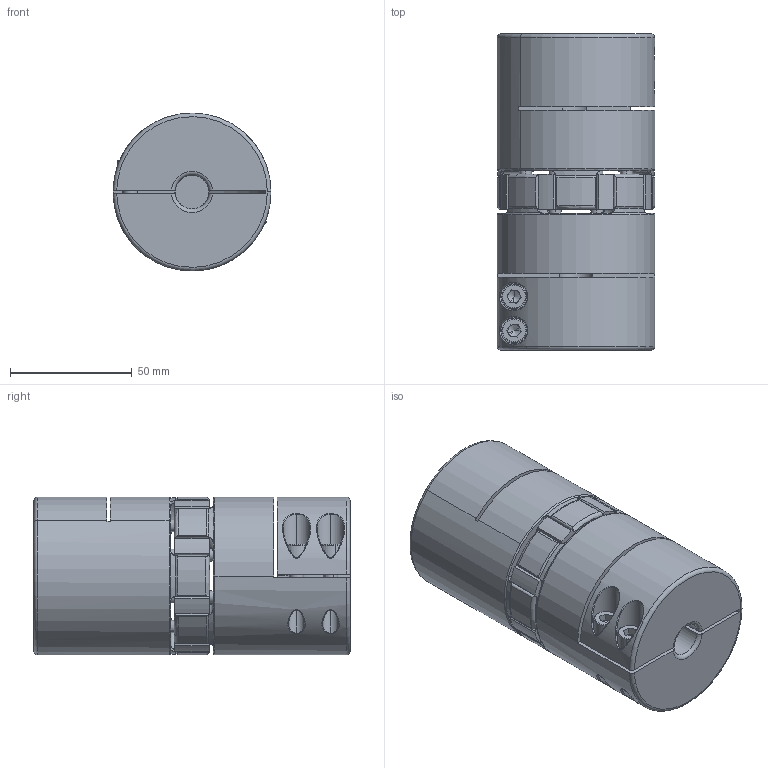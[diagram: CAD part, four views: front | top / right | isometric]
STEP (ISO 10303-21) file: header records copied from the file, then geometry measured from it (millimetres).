
FILE_DESCRIPTION (( 'STEP AP203' ), '1' );
FILE_NAME ('DXA-65X130-14-14.STEP', '2023-10-18T06:24:12', ( '' ), ( '' ), 'SwSTEP 2.0', 'SolidWorks 2020', '' );
FILE_SCHEMA (( 'CONFIG_CONTROL_DESIGN' ));
Length unit declared in the file: millimetre
Products named in the file (4): 65X130傷窒璃; 65繩豪菜; socket head cap screw_iso_ISO 4762 M6 x 20 - 20C; DXA-65X130-14-14
Assembly tree (7 placements, depth 2):
  DXA-65X130-14-14
    65繩豪菜
    65X130傷窒璃  x2
    socket head cap screw_iso_ISO 4762 M6 x 20 - 20C  x4
Bounding box: 65 x 130.1 x 65 mm (x, y, z)
Volume: 385681.9 mm3; surface area: 72889 mm2
Topology: 7 solids, 7 shells, 481 faces, 1215 edges, 768 vertices
Faces by surface type: cylinder 215, torus 112, plane 110, cone 28, bspline 16
Entity records: 10282 total; most frequent: CARTESIAN_POINT 3449, DIRECTION 1440, ORIENTED_EDGE 1290, EDGE_CURVE 645, AXIS2_PLACEMENT_3D 627, VERTEX_POINT 416, CIRCLE 371, EDGE_LOOP 283
